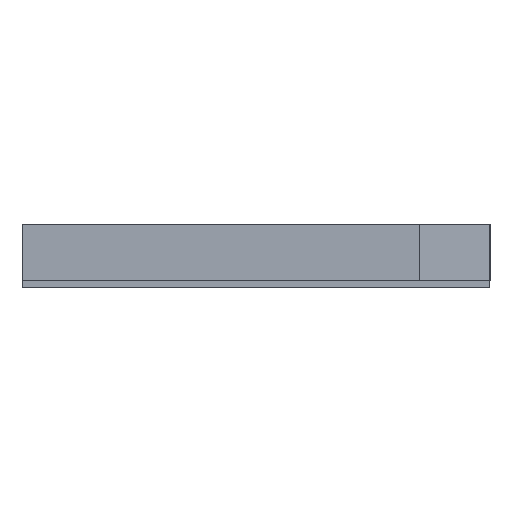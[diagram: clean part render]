
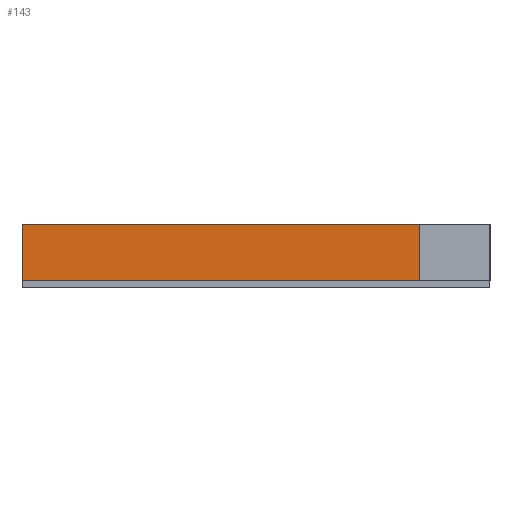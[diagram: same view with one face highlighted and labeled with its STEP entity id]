
A CAD part, front view. The second image highlights one B-rep face of the part: STEP entity #143.
In plain terms, the highlighted planar face has unit normal (0, -1, 0).
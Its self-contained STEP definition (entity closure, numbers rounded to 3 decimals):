
#143=ADVANCED_FACE('',(#719),#721,.T.);
#719=FACE_BOUND('',#720,.T.);
#720=EDGE_LOOP('',(#1233,#1234,#1235,#1236));
#721=PLANE('',#722);
#722=AXIS2_PLACEMENT_3D('',#723,#724,#725);
#723=CARTESIAN_POINT('',(-100.,-210.,0.));
#724=DIRECTION('',(0.,-1.,0.));
#725=DIRECTION('',(1.,0.,0.));
#1233=ORIENTED_EDGE('',*,*,#1441,.T.);
#1234=ORIENTED_EDGE('',*,*,#1446,.F.);
#1235=ORIENTED_EDGE('',*,*,#1398,.F.);
#1236=ORIENTED_EDGE('',*,*,#1403,.T.);
#1398=EDGE_CURVE('',#1544,#1546,#1547,.T.);
#1403=EDGE_CURVE('',#1544,#1552,#1554,.T.);
#1441=EDGE_CURVE('',#1552,#1625,#1626,.T.);
#1446=EDGE_CURVE('',#1546,#1625,#1632,.T.);
#1544=VERTEX_POINT('',#1802);
#1546=VERTEX_POINT('',#1806);
#1547=LINE('',#1807,#1808);
#1552=VERTEX_POINT('',#1820);
#1554=LINE('',#1824,#1825);
#1625=VERTEX_POINT('',#1991);
#1626=LINE('',#1992,#1993);
#1632=LINE('',#2008,#2009);
#1802=CARTESIAN_POINT('',(-100.,-210.,0.));
#1806=CARTESIAN_POINT('',(-100.,-210.,12.));
#1807=CARTESIAN_POINT('',(-100.,-210.,0.));
#1808=VECTOR('',#1809,1.);
#1809=DIRECTION('',(0.,0.,1.));
#1820=CARTESIAN_POINT('',(-15.,-210.,0.));
#1824=CARTESIAN_POINT('',(-100.,-210.,0.));
#1825=VECTOR('',#1826,1.);
#1826=DIRECTION('',(1.,0.,0.));
#1991=CARTESIAN_POINT('',(-15.,-210.,12.));
#1992=CARTESIAN_POINT('',(-15.,-210.,0.));
#1993=VECTOR('',#1994,1.);
#1994=DIRECTION('',(0.,0.,1.));
#2008=CARTESIAN_POINT('',(-100.,-210.,12.));
#2009=VECTOR('',#2010,1.);
#2010=DIRECTION('',(1.,0.,0.));
